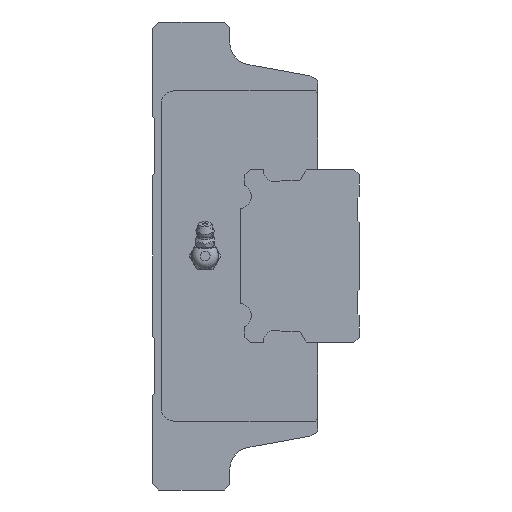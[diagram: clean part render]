
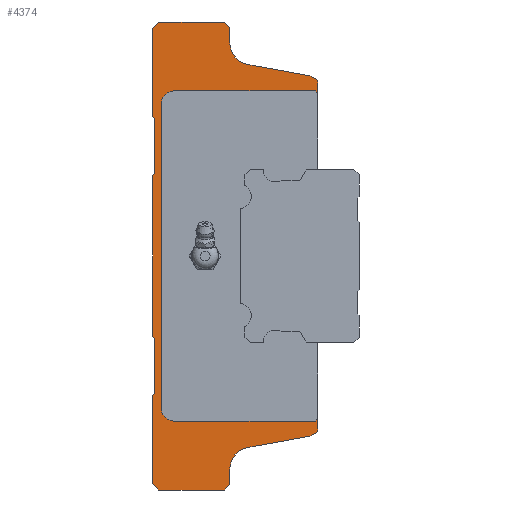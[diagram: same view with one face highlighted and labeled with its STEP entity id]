
A CAD part, left-side view. The second image highlights one B-rep face of the part: STEP entity #4374.
In plain terms, the highlighted planar face has unit normal (-1, 0, 0).
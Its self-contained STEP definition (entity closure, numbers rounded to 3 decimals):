
#208=CIRCLE('',#4706,8.);
#211=CIRCLE('',#4721,8.);
#229=CIRCLE('',#4748,8.);
#230=CIRCLE('',#4751,8.);
#272=CIRCLE('',#4820,5.);
#273=CIRCLE('',#4821,5.);
#1129=ORIENTED_EDGE('',*,*,#2081,.F.);
#1130=ORIENTED_EDGE('',*,*,#1916,.F.);
#1131=ORIENTED_EDGE('',*,*,#1912,.F.);
#1132=ORIENTED_EDGE('',*,*,#2024,.F.);
#1133=ORIENTED_EDGE('',*,*,#1909,.T.);
#1134=ORIENTED_EDGE('',*,*,#1828,.F.);
#1135=ORIENTED_EDGE('',*,*,#1825,.F.);
#1136=ORIENTED_EDGE('',*,*,#2015,.F.);
#1137=ORIENTED_EDGE('',*,*,#2003,.F.);
#1138=ORIENTED_EDGE('',*,*,#2072,.F.);
#1139=ORIENTED_EDGE('',*,*,#2069,.F.);
#1140=ORIENTED_EDGE('',*,*,#2066,.F.);
#1141=ORIENTED_EDGE('',*,*,#2063,.F.);
#1142=ORIENTED_EDGE('',*,*,#2060,.F.);
#1143=ORIENTED_EDGE('',*,*,#2057,.F.);
#1144=ORIENTED_EDGE('',*,*,#2054,.F.);
#1145=ORIENTED_EDGE('',*,*,#2051,.F.);
#1146=ORIENTED_EDGE('',*,*,#2048,.F.);
#1147=ORIENTED_EDGE('',*,*,#2045,.F.);
#1148=ORIENTED_EDGE('',*,*,#2038,.F.);
#1149=ORIENTED_EDGE('',*,*,#1804,.F.);
#1150=ORIENTED_EDGE('',*,*,#1801,.F.);
#1151=ORIENTED_EDGE('',*,*,#1884,.T.);
#1152=ORIENTED_EDGE('',*,*,#1874,.F.);
#1153=ORIENTED_EDGE('',*,*,#1859,.F.);
#1154=ORIENTED_EDGE('',*,*,#1932,.F.);
#1155=ORIENTED_EDGE('',*,*,#2082,.F.);
#1156=ORIENTED_EDGE('',*,*,#2083,.F.);
#1157=ORIENTED_EDGE('',*,*,#2084,.F.);
#1158=ORIENTED_EDGE('',*,*,#2085,.F.);
#1159=ORIENTED_EDGE('',*,*,#2086,.F.);
#1160=ORIENTED_EDGE('',*,*,#2087,.F.);
#1801=EDGE_CURVE('',#2369,#2367,#2774,.T.);
#1804=EDGE_CURVE('',#2367,#2371,#2777,.T.);
#1825=EDGE_CURVE('',#2391,#2389,#2790,.T.);
#1828=EDGE_CURVE('',#2389,#2393,#2793,.T.);
#1859=EDGE_CURVE('',#2411,#2412,#208,.T.);
#1874=EDGE_CURVE('',#2412,#2426,#2815,.T.);
#1884=EDGE_CURVE('',#2369,#2426,#211,.T.);
#1909=EDGE_CURVE('',#2451,#2393,#229,.T.);
#1912=EDGE_CURVE('',#2452,#2453,#230,.T.);
#1916=EDGE_CURVE('',#2453,#2456,#2824,.T.);
#1932=EDGE_CURVE('',#2467,#2411,#2837,.T.);
#2003=EDGE_CURVE('',#2534,#2535,#2874,.T.);
#2015=EDGE_CURVE('',#2535,#2391,#2886,.T.);
#2024=EDGE_CURVE('',#2451,#2452,#2895,.T.);
#2038=EDGE_CURVE('',#2371,#2556,#2908,.T.);
#2045=EDGE_CURVE('',#2556,#2560,#2915,.T.);
#2048=EDGE_CURVE('',#2560,#2562,#2918,.T.);
#2051=EDGE_CURVE('',#2562,#2564,#2921,.T.);
#2054=EDGE_CURVE('',#2564,#2566,#2924,.T.);
#2057=EDGE_CURVE('',#2566,#2568,#2927,.T.);
#2060=EDGE_CURVE('',#2568,#2570,#2930,.T.);
#2063=EDGE_CURVE('',#2570,#2572,#2933,.T.);
#2066=EDGE_CURVE('',#2572,#2574,#2936,.T.);
#2069=EDGE_CURVE('',#2574,#2576,#2939,.T.);
#2072=EDGE_CURVE('',#2576,#2534,#2942,.T.);
#2081=EDGE_CURVE('',#2456,#2584,#2949,.T.);
#2082=EDGE_CURVE('',#2585,#2467,#2950,.T.);
#2083=EDGE_CURVE('',#2586,#2585,#2951,.T.);
#2084=EDGE_CURVE('',#2587,#2586,#272,.F.);
#2085=EDGE_CURVE('',#2588,#2587,#2952,.T.);
#2086=EDGE_CURVE('',#2589,#2588,#273,.F.);
#2087=EDGE_CURVE('',#2584,#2589,#2953,.T.);
#2367=VERTEX_POINT('',#6671);
#2369=VERTEX_POINT('',#6675);
#2371=VERTEX_POINT('',#6680);
#2389=VERTEX_POINT('',#6735);
#2391=VERTEX_POINT('',#6739);
#2393=VERTEX_POINT('',#6744);
#2411=VERTEX_POINT('',#6819);
#2412=VERTEX_POINT('',#6821);
#2426=VERTEX_POINT('',#6869);
#2451=VERTEX_POINT('',#6959);
#2452=VERTEX_POINT('',#6964);
#2453=VERTEX_POINT('',#6966);
#2456=VERTEX_POINT('',#6975);
#2467=VERTEX_POINT('',#7002);
#2534=VERTEX_POINT('',#7144);
#2535=VERTEX_POINT('',#7145);
#2556=VERTEX_POINT('',#7209);
#2560=VERTEX_POINT('',#7221);
#2562=VERTEX_POINT('',#7227);
#2564=VERTEX_POINT('',#7233);
#2566=VERTEX_POINT('',#7239);
#2568=VERTEX_POINT('',#7245);
#2570=VERTEX_POINT('',#7251);
#2572=VERTEX_POINT('',#7257);
#2574=VERTEX_POINT('',#7263);
#2576=VERTEX_POINT('',#7269);
#2584=VERTEX_POINT('',#7292);
#2585=VERTEX_POINT('',#7294);
#2586=VERTEX_POINT('',#7296);
#2587=VERTEX_POINT('',#7298);
#2588=VERTEX_POINT('',#7300);
#2589=VERTEX_POINT('',#7302);
#2774=LINE('',#6676,#3134);
#2777=LINE('',#6682,#3137);
#2790=LINE('',#6740,#3150);
#2793=LINE('',#6746,#3153);
#2815=LINE('',#6868,#3175);
#2824=LINE('',#6974,#3184);
#2837=LINE('',#7003,#3197);
#2874=LINE('',#7143,#3234);
#2886=LINE('',#7166,#3246);
#2895=LINE('',#7182,#3255);
#2908=LINE('',#7208,#3268);
#2915=LINE('',#7220,#3275);
#2918=LINE('',#7226,#3278);
#2921=LINE('',#7232,#3281);
#2924=LINE('',#7238,#3284);
#2927=LINE('',#7244,#3287);
#2930=LINE('',#7250,#3290);
#2933=LINE('',#7256,#3293);
#2936=LINE('',#7262,#3296);
#2939=LINE('',#7268,#3299);
#2942=LINE('',#7274,#3302);
#2949=LINE('',#7291,#3309);
#2950=LINE('',#7293,#3310);
#2951=LINE('',#7295,#3311);
#2952=LINE('',#7299,#3312);
#2953=LINE('',#7303,#3313);
#3134=VECTOR('',#5388,1000.);
#3137=VECTOR('',#5393,1000.);
#3150=VECTOR('',#5422,1000.);
#3153=VECTOR('',#5427,1000.);
#3175=VECTOR('',#5505,1000.);
#3184=VECTOR('',#5600,1000.);
#3197=VECTOR('',#5621,1000.);
#3234=VECTOR('',#5732,1000.);
#3246=VECTOR('',#5746,1000.);
#3255=VECTOR('',#5761,1000.);
#3268=VECTOR('',#5784,1000.);
#3275=VECTOR('',#5793,1000.);
#3278=VECTOR('',#5798,1000.);
#3281=VECTOR('',#5803,1000.);
#3284=VECTOR('',#5808,1000.);
#3287=VECTOR('',#5813,1000.);
#3290=VECTOR('',#5818,1000.);
#3293=VECTOR('',#5823,1000.);
#3296=VECTOR('',#5828,1000.);
#3299=VECTOR('',#5833,1000.);
#3302=VECTOR('',#5838,1000.);
#3309=VECTOR('',#5853,1000.);
#3310=VECTOR('',#5854,1000.);
#3311=VECTOR('',#5855,1000.);
#3312=VECTOR('',#5858,1000.);
#3313=VECTOR('',#5861,1000.);
#3575=EDGE_LOOP('',(#1129,#1130,#1131,#1132,#1133,#1134,#1135,#1136,#1137,
#1138,#1139,#1140,#1141,#1142,#1143,#1144,#1145,#1146,#1147,#1148,#1149,
#1150,#1151,#1152,#1153,#1154,#1155,#1156,#1157,#1158,#1159,#1160));
#3932=FACE_BOUND('',#3575,.T.);
#4175=PLANE('',#4819);
#4374=ADVANCED_FACE('',(#3932),#4175,.F.);
#4706=AXIS2_PLACEMENT_3D('',#6820,#5484,#5485);
#4721=AXIS2_PLACEMENT_3D('',#6890,#5525,#5526);
#4748=AXIS2_PLACEMENT_3D('',#6958,#5581,#5582);
#4751=AXIS2_PLACEMENT_3D('',#6965,#5589,#5590);
#4819=AXIS2_PLACEMENT_3D('',#7290,#5851,#5852);
#4820=AXIS2_PLACEMENT_3D('',#7297,#5856,#5857);
#4821=AXIS2_PLACEMENT_3D('',#7301,#5859,#5860);
#5388=DIRECTION('',(0.,0.,-1.));
#5393=DIRECTION('',(0.,0.707,-0.707));
#5422=DIRECTION('',(0.,-0.707,-0.707));
#5427=DIRECTION('',(0.,0.,-1.));
#5484=DIRECTION('',(1.,0.,0.));
#5485=DIRECTION('',(0.,0.,-1.));
#5505=DIRECTION('',(0.,0.984,-0.178));
#5525=DIRECTION('',(1.,0.,0.));
#5526=DIRECTION('',(0.,0.,-1.));
#5581=DIRECTION('',(1.,0.,0.));
#5582=DIRECTION('',(0.,0.,-1.));
#5589=DIRECTION('',(1.,0.,0.));
#5590=DIRECTION('',(0.,0.,-1.));
#5600=DIRECTION('',(0.,0.,-1.));
#5621=DIRECTION('',(0.,0.,-1.));
#5732=DIRECTION('',(0.,-0.707,0.707));
#5746=DIRECTION('',(0.,-1.,0.));
#5761=DIRECTION('',(0.,-0.984,-0.178));
#5784=DIRECTION('',(0.,1.,0.));
#5793=DIRECTION('',(0.,0.707,0.707));
#5798=DIRECTION('',(0.,0.,1.));
#5803=DIRECTION('',(0.,-0.707,0.707));
#5808=DIRECTION('',(0.,0.,1.));
#5813=DIRECTION('',(0.,0.707,0.707));
#5818=DIRECTION('',(0.,0.,1.));
#5823=DIRECTION('',(0.,-0.707,0.707));
#5828=DIRECTION('',(0.,0.,1.));
#5833=DIRECTION('',(0.,0.707,0.707));
#5838=DIRECTION('',(0.,0.,1.));
#5851=DIRECTION('',(1.,0.,0.));
#5852=DIRECTION('',(0.,0.,-1.));
#5853=DIRECTION('',(0.,0.707,0.707));
#5854=DIRECTION('',(0.,-0.707,0.707));
#5855=DIRECTION('',(0.,-1.,0.));
#5856=DIRECTION('',(1.,0.,0.));
#5857=DIRECTION('',(0.,0.,-1.));
#5858=DIRECTION('',(0.,0.,-1.));
#5859=DIRECTION('',(1.,0.,0.));
#5860=DIRECTION('',(0.,0.,-1.));
#5861=DIRECTION('',(0.,1.,0.));
#6671=CARTESIAN_POINT('',(-101.8,32.,-83.));
#6675=CARTESIAN_POINT('',(-101.8,32.,-77.4));
#6676=CARTESIAN_POINT('',(-101.8,32.,-77.4));
#6680=CARTESIAN_POINT('',(-101.8,34.,-85.));
#6682=CARTESIAN_POINT('',(-101.8,32.,-83.));
#6735=CARTESIAN_POINT('',(-101.8,32.,83.));
#6739=CARTESIAN_POINT('',(-101.8,34.,85.));
#6740=CARTESIAN_POINT('',(-101.8,34.,85.));
#6744=CARTESIAN_POINT('',(-101.8,32.,77.4));
#6746=CARTESIAN_POINT('',(-101.8,32.,83.));
#6819=CARTESIAN_POINT('',(-101.8,0.,-63.609));
#6820=CARTESIAN_POINT('',(-101.8,5.5,-57.8));
#6821=CARTESIAN_POINT('',(-101.8,4.078,-65.673));
#6868=CARTESIAN_POINT('',(-101.8,4.078,-65.673));
#6869=CARTESIAN_POINT('',(-101.8,25.422,-69.527));
#6890=CARTESIAN_POINT('',(-101.8,24.,-77.4));
#6958=CARTESIAN_POINT('',(-101.8,24.,77.4));
#6959=CARTESIAN_POINT('',(-101.8,25.422,69.527));
#6964=CARTESIAN_POINT('',(-101.8,4.078,65.673));
#6965=CARTESIAN_POINT('',(-101.8,5.5,57.8));
#6966=CARTESIAN_POINT('',(-101.8,0.,63.609));
#6974=CARTESIAN_POINT('',(-101.8,0.,63.609));
#6975=CARTESIAN_POINT('',(-101.8,0.,59.));
#7002=CARTESIAN_POINT('',(-101.8,0.,-59.));
#7003=CARTESIAN_POINT('',(-101.8,0.,63.609));
#7143=CARTESIAN_POINT('',(-101.8,60.,82.8));
#7144=CARTESIAN_POINT('',(-101.8,60.,82.8));
#7145=CARTESIAN_POINT('',(-101.8,57.8,85.));
#7166=CARTESIAN_POINT('',(-101.8,57.8,85.));
#7182=CARTESIAN_POINT('',(-101.8,25.422,69.527));
#7208=CARTESIAN_POINT('',(-101.8,34.,-85.));
#7209=CARTESIAN_POINT('',(-101.8,57.8,-85.));
#7220=CARTESIAN_POINT('',(-101.8,57.8,-85.));
#7221=CARTESIAN_POINT('',(-101.8,60.,-82.8));
#7226=CARTESIAN_POINT('',(-101.8,60.,-82.8));
#7227=CARTESIAN_POINT('',(-101.8,60.,-50.8));
#7232=CARTESIAN_POINT('',(-101.8,60.,-50.8));
#7233=CARTESIAN_POINT('',(-101.8,59.2,-50.));
#7238=CARTESIAN_POINT('',(-101.8,59.2,-50.));
#7239=CARTESIAN_POINT('',(-101.8,59.2,-30.));
#7244=CARTESIAN_POINT('',(-101.8,59.2,-30.));
#7245=CARTESIAN_POINT('',(-101.8,60.,-29.2));
#7250=CARTESIAN_POINT('',(-101.8,60.,-29.2));
#7251=CARTESIAN_POINT('',(-101.8,60.,29.2));
#7256=CARTESIAN_POINT('',(-101.8,60.,29.2));
#7257=CARTESIAN_POINT('',(-101.8,59.2,30.));
#7262=CARTESIAN_POINT('',(-101.8,59.2,30.));
#7263=CARTESIAN_POINT('',(-101.8,59.2,50.));
#7268=CARTESIAN_POINT('',(-101.8,59.2,50.));
#7269=CARTESIAN_POINT('',(-101.8,60.,50.8));
#7274=CARTESIAN_POINT('',(-101.8,60.,50.8));
#7290=CARTESIAN_POINT('',(-101.8,24.,77.4));
#7291=CARTESIAN_POINT('',(-101.8,21.2,80.2));
#7292=CARTESIAN_POINT('',(-101.8,1.,60.));
#7293=CARTESIAN_POINT('',(-101.8,-56.2,-2.8));
#7294=CARTESIAN_POINT('',(-101.8,1.,-60.));
#7295=CARTESIAN_POINT('',(-101.8,24.,-60.));
#7296=CARTESIAN_POINT('',(-101.8,52.,-60.));
#7297=CARTESIAN_POINT('',(-101.8,52.,-55.));
#7298=CARTESIAN_POINT('',(-101.8,57.,-55.));
#7299=CARTESIAN_POINT('',(-101.8,57.,77.4));
#7300=CARTESIAN_POINT('',(-101.8,57.,55.));
#7301=CARTESIAN_POINT('',(-101.8,52.,55.));
#7302=CARTESIAN_POINT('',(-101.8,52.,60.));
#7303=CARTESIAN_POINT('',(-101.8,24.,60.));
